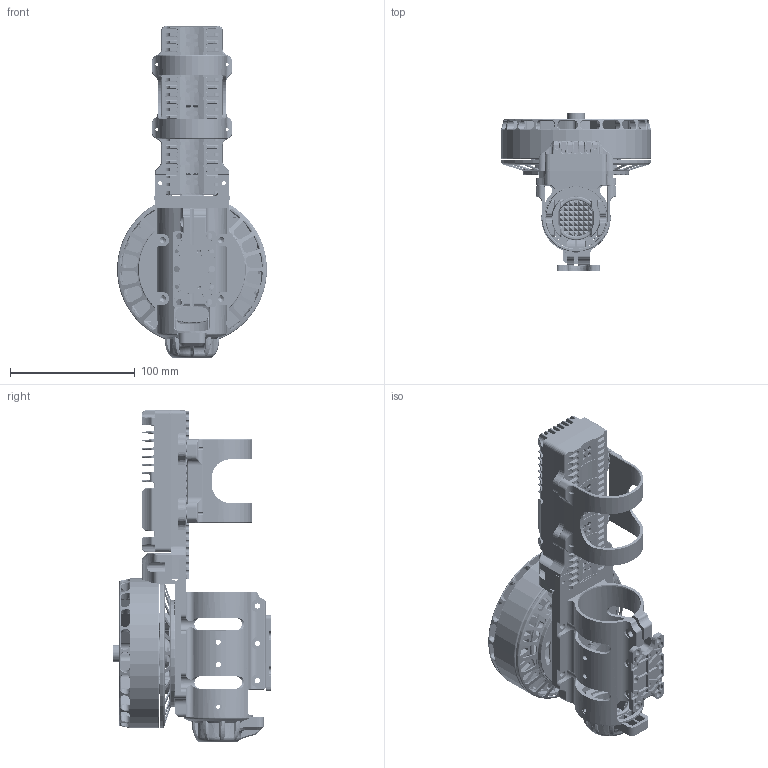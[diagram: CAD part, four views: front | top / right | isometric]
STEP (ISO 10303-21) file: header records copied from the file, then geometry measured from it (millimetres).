
FILE_DESCRIPTION((''),'2;1');
FILE_NAME('D50-GJZ','2021-02-23T',('owner'),(''),'PRO/ENGINEER BY PARAMETRIC TECHNOLOGY CORPORATION, 2014320','PRO/ENGINEER BY PARAMETRIC TECHNOLOGY CORPORATION, 2014320','');
FILE_SCHEMA(('CONFIG_CONTROL_DESIGN','SHAPE_APPEARANCE_LAYERS_GROUPS'));
Length unit declared in the file: millimetre
Products named in the file (1): D50-GJZ
Bounding box: 120.02 x 126.9 x 266 mm (x, y, z)
Volume: 356187.2 mm3; surface area: 289996.4 mm2
Topology: 5 solids, 164 shells, 8824 faces, 23681 edges, 14874 vertices
Faces by surface type: plane 3865, cylinder 3116, bspline 891, cone 672, torus 183, sphere 79, extrusion 10, revolution 8
Entity records: 430672 total; most frequent: CARTESIAN_POINT 146840, ORIENTED_EDGE 47070, DIRECTION 41473, PRESENTATION_STYLE_ASSIGNMENT 23540, STYLED_ITEM 23540, CURVE_STYLE 23535, EDGE_CURVE 23535, VERTEX_POINT 14874
